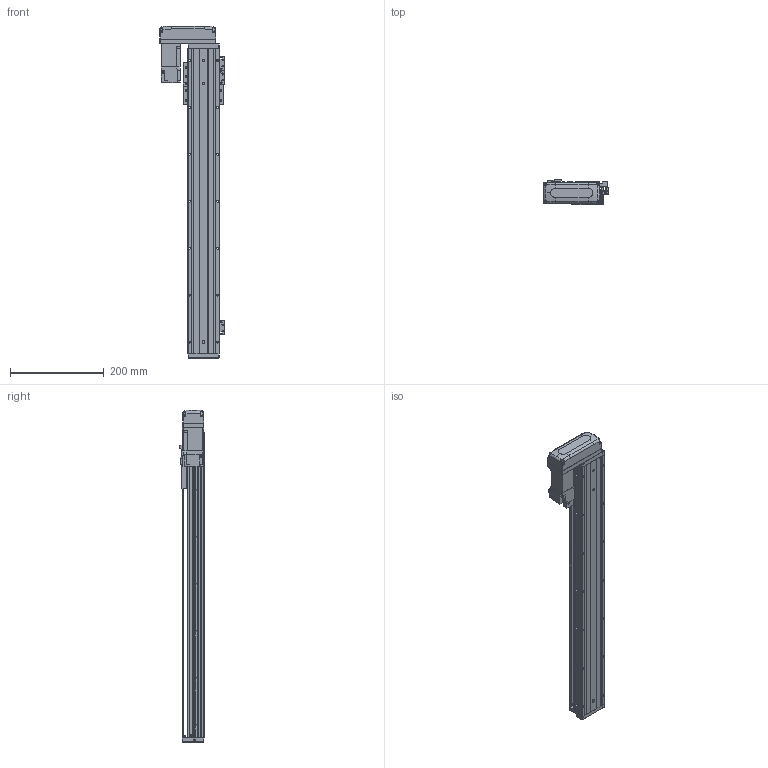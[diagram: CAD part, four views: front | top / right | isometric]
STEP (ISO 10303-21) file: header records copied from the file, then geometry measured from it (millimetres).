
FILE_DESCRIPTION (( 'STEP AP203' ), '1' );
FILE_NAME ('KTHAL60-500-BR-M10-C4L.step', '2022-03-19T08:44:51', ( '微软用户' ), ( '微软中国' ), 'SwSTEP 2.0', 'SolidWorks 2020', '' );
FILE_SCHEMA (( 'CONFIG_CONTROL_DESIGN' ));
Length unit declared in the file: millimetre
Products named in the file (18): GBT 70.3-M3℅6; CTHA60-016; EE_SX911P_R; HG-KR13（三菱）; KTHA60-001_650; CTHA60-017; CTHA60-015-2_CTHA60-015-2; KTHLA60-002; CTHA60-021; CTHA60-033; KTHA60-004; GBT 70.1-M4×16; GBT 70.1-M3×15; KTHA60-005; GBT77-2000M3-3; KTHAL60-500-BR-M10-C4L; GB¨uT 70.2-M3¡Á5_M3¡Á6; GBT 70.1-M3℅6
Assembly tree (51 placements, depth 2):
  KTHAL60-500-BR-M10-C4L
    KTHA60-001_650
    KTHLA60-002
    KTHA60-004
    KTHA60-005
    GB¨uT 70.2-M3¡Á5_M3¡Á6  x5
    GBT 70.3-M3℅6  x4
    EE_SX911P_R  x3
    CTHA60-017  x3
    CTHA60-021  x2
    GBT 70.1-M4×16  x10
    GBT77-2000M3-3  x6
    GBT 70.1-M3℅6  x6
    CTHA60-016
    HG-KR13（三菱）
    CTHA60-015-2_CTHA60-015-2
    CTHA60-033
    GBT 70.1-M3×15  x4
Bounding box: 137.82 x 52.3 x 707 mm (x, y, z)
Volume: 1534738.2 mm3; surface area: 378819.7 mm2
Topology: 54 solids, 54 shells, 2295 faces, 5443 edges, 3341 vertices
Faces by surface type: plane 1312, cylinder 559, cone 286, torus 98, bspline 26, sphere 14
Entity records: 39993 total; most frequent: CARTESIAN_POINT 7560, DIRECTION 6243, ORIENTED_EDGE 6030, EDGE_CURVE 3015, AXIS2_PLACEMENT_3D 2091, VECTOR 2061, LINE 2061, VERTEX_POINT 1890
